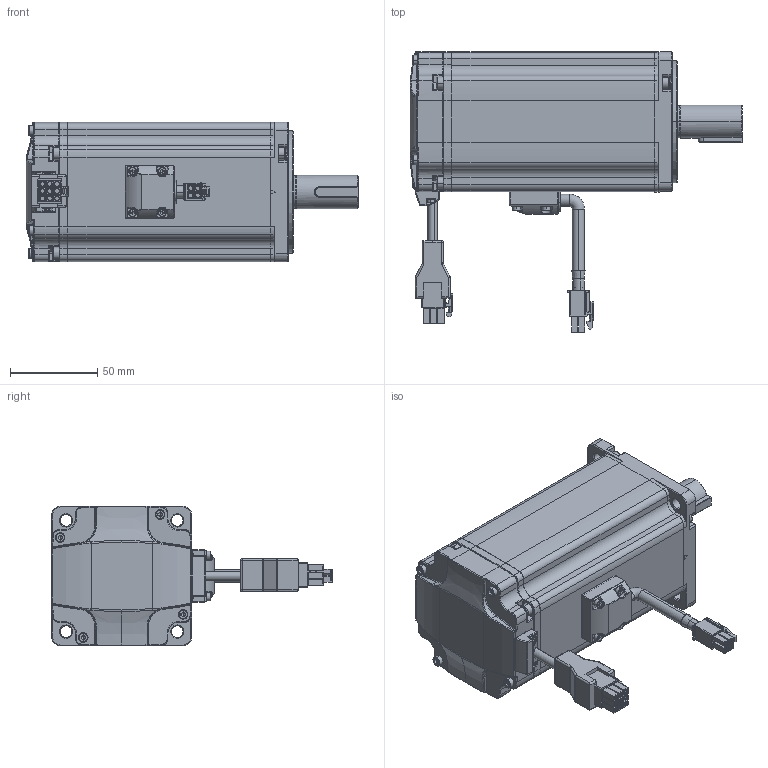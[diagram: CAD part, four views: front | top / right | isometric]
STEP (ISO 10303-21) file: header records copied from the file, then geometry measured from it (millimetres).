
FILE_DESCRIPTION (( 'STEP AP203' ), '1' );
FILE_NAME ('EM3J-10ALA241.STEP', '2023-11-16T02:33:46', ( '' ), ( '' ), 'SwSTEP 2.0', 'SolidWorks 2018', '' );
FILE_SCHEMA (( 'CONFIG_CONTROL_DESIGN' ));
Length unit declared in the file: millimetre
Products named in the file (1): EM3J-10ALA241
Bounding box: 190 x 160.49 x 80 mm (x, y, z)
Volume: 304123 mm3; surface area: 131502.7 mm2
Topology: 26 solids, 26 shells, 2362 faces, 5824 edges, 3551 vertices
Faces by surface type: plane 1113, cylinder 668, cone 282, torus 151, bspline 97, sphere 51
Entity records: 71239 total; most frequent: CARTESIAN_POINT 15775, DIRECTION 11634, ORIENTED_EDGE 11498, EDGE_CURVE 5749, AXIS2_PLACEMENT_3D 4134, VERTEX_POINT 3551, LINE 3366, VECTOR 3366
